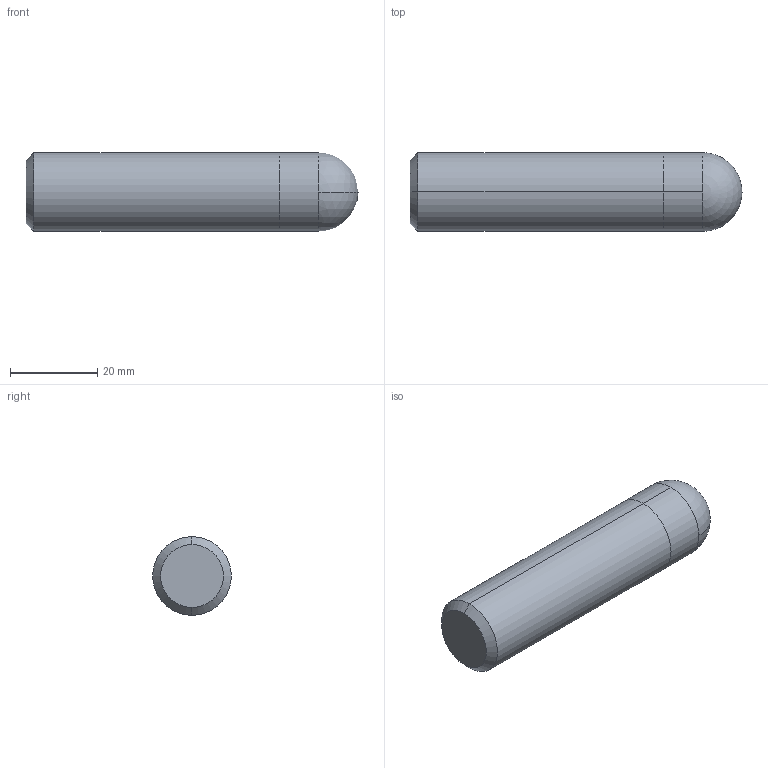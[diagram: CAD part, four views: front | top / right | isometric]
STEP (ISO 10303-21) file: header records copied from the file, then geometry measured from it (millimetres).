
FILE_DESCRIPTION (( 'STEP AP214' ), '1' );
FILE_NAME ('G9624180.STEP', '2018-07-02T08:25:22', ( 'USER' ), ( '' ), 'SwSTEP 2.0', 'SolidWorks 2014', '' );
FILE_SCHEMA (( 'AUTOMOTIVE_DESIGN' ));
Length unit declared in the file: millimetre
Products named in the file (1): G9624180
Bounding box: 76 x 18 x 18 mm (x, y, z)
Volume: 18490.7 mm3; surface area: 4997.3 mm2
Topology: 2 solids, 2 shells, 11 faces, 22 edges, 13 vertices
Faces by surface type: cylinder 4, plane 3, cone 2, sphere 2
Entity records: 378 total; most frequent: DIRECTION 58, CARTESIAN_POINT 45, ORIENTED_EDGE 40, AXIS2_PLACEMENT_3D 26, EDGE_CURVE 20, CIRCLE 14, VERTEX_POINT 13, ADVANCED_FACE 11
